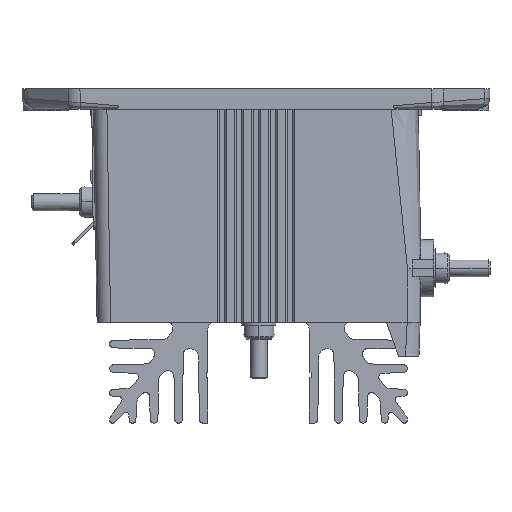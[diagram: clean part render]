
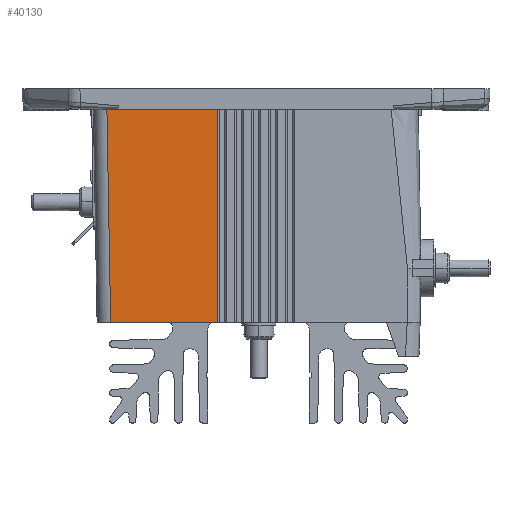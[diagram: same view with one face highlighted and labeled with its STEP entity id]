
A CAD part, left-side view. The second image highlights one B-rep face of the part: STEP entity #40130.
In plain terms, the highlighted planar face has unit normal (-1, 0, -0.018).
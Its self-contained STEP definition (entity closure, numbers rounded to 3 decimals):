
#28010=CARTESIAN_POINT('',(-29.918,41.918,-25.));
#28020=VERTEX_POINT('',#28010);
#28050=CARTESIAN_POINT('',(-29.918,0.,-25.));
#28060=DIRECTION('',(0.,1.,0.));
#28070=VECTOR('',#28060,1.);
#28080=LINE('',#28050,#28070);
#28090=CARTESIAN_POINT('',(-29.918,10.284,-25.));
#28100=VERTEX_POINT('',#28090);
#28110=EDGE_CURVE('',#28100,#28020,#28080,.T.);
#29550=CARTESIAN_POINT('',(-31.,0.,37.));
#29560=DIRECTION('',(1.,0.,0.017));
#29570=DIRECTION('',(0.,-1.,0.));
#29580=AXIS2_PLACEMENT_3D('',#29550,#29560,#29570);
#29590=PLANE('',#29580);
#39800=CARTESIAN_POINT('',(-31.017,43.018,38.));
#39810=VERTEX_POINT('',#39800);
#39840=CARTESIAN_POINT('',(-30.388,42.388,
1.93));
#39850=DIRECTION('',(-0.017,0.017,
1.));
#39860=VECTOR('',#39850,1.);
#39870=LINE('',#39840,#39860);
#39880=EDGE_CURVE('',#28020,#39810,#39870,.T.);
#39950=ORIENTED_EDGE('',*,*,#28110,.F.);
#39960=ORIENTED_EDGE('',*,*,#39880,.F.);
#39970=CARTESIAN_POINT('',(-31.017,0.,38.));
#39980=DIRECTION('',(0.,1.,0.));
#39990=VECTOR('',#39980,1.);
#40000=LINE('',#39970,#39990);
#40010=CARTESIAN_POINT('',(-31.017,10.284,38.));
#40020=VERTEX_POINT('',#40010);
#40030=EDGE_CURVE('',#40020,#39810,#40000,.T.);
#40040=ORIENTED_EDGE('',*,*,#40030,.T.);
#40050=CARTESIAN_POINT('',(-30.354,10.284,0.));
#40060=DIRECTION('',(-0.017,0.,
1.));
#40070=VECTOR('',#40060,1.);
#40080=LINE('',#40050,#40070);
#40090=EDGE_CURVE('',#28100,#40020,#40080,.T.);
#40100=ORIENTED_EDGE('',*,*,#40090,.T.);
#40110=EDGE_LOOP('',(#40100,#40040,#39960,#39950));
#40120=FACE_OUTER_BOUND('',#40110,.T.);
#40130=ADVANCED_FACE('',(#40120),#29590,.F.);
